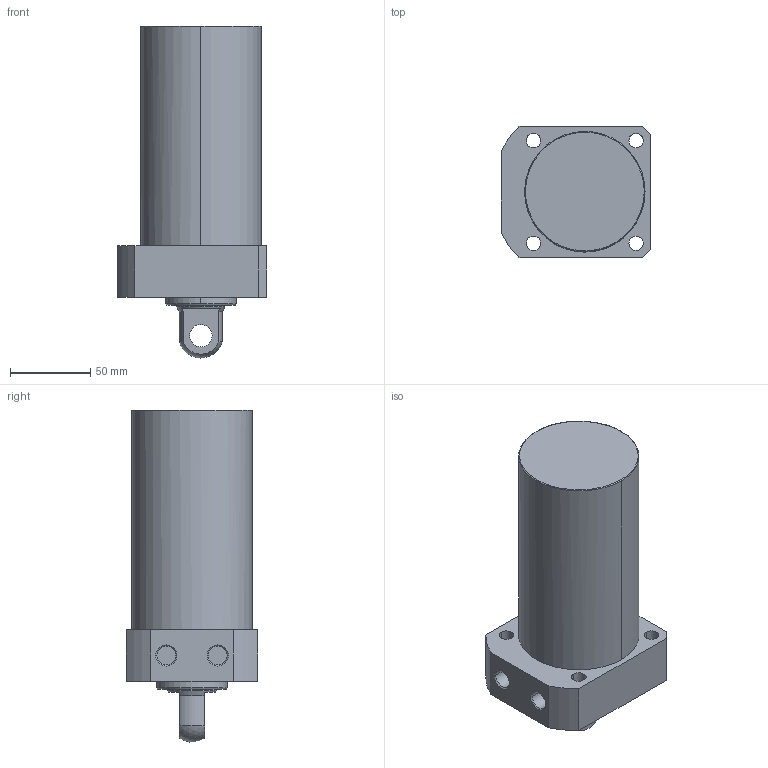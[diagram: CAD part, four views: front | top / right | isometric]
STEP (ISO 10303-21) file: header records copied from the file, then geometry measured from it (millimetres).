
FILE_DESCRIPTION((' '),'2;1');
FILE_NAME( 'TLLR-075CP-100.STEP.stp', '2025-10-24T16:35:15', (' '), ('--- Datakit www.datakit.com---'), ' Datakit CrossCadWare V2024.1 Dec 21 2023', 'Mastercam 2025', ' ');
FILE_SCHEMA(('AUTOMOTIVE_DESIGN { 1 0 10303 214 1 1 1 1 }'));
Length unit declared in the file: millimetre
Products named in the file (1): TLLR-075CP-100
Bounding box: 93 x 82 x 206.9 mm (x, y, z)
Volume: 848697.5 mm3; surface area: 65518.4 mm2
Topology: 1 solids, 1 shells, 57 faces, 164 edges, 116 vertices
Faces by surface type: cylinder 28, plane 18, cone 8, torus 2, sphere 1
Entity records: 2006 total; most frequent: DIRECTION 378, CARTESIAN_POINT 350, ORIENTED_EDGE 328, EDGE_CURVE 164, AXIS2_PLACEMENT_3D 160, VERTEX_POINT 116, CIRCLE 102, EDGE_LOOP 74
